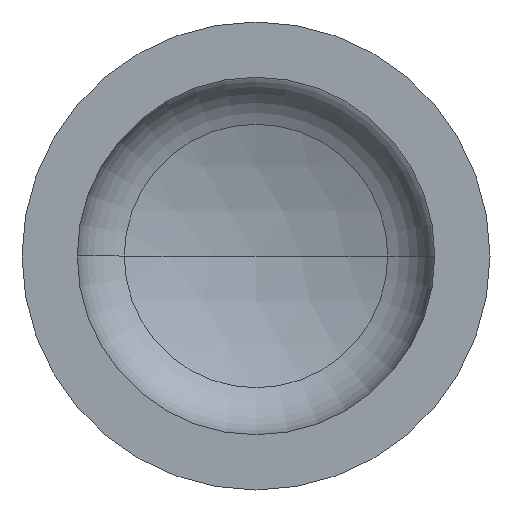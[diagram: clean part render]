
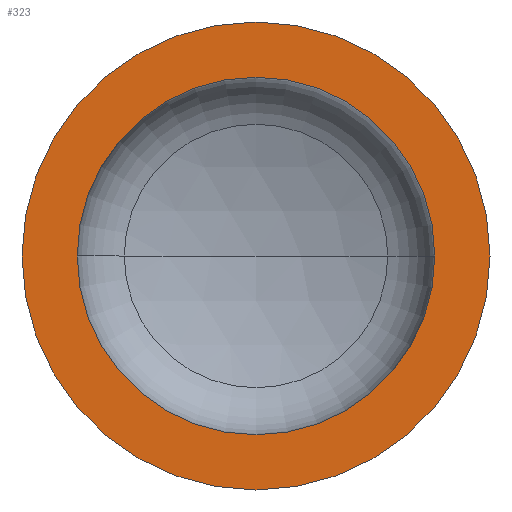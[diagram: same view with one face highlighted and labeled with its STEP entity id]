
A CAD part, front view. The second image highlights one B-rep face of the part: STEP entity #323.
In plain terms, the highlighted planar face has unit normal (0, -1, 0).
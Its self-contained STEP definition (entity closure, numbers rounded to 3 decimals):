
#4 = EDGE_LOOP ( 'NONE', ( #6, #92 ) ) ;
#6 = ORIENTED_EDGE ( 'NONE', *, *, #366, .T. ) ;
#28 = CIRCLE ( 'NONE', #224, 382. ) ;
#31 = EDGE_LOOP ( 'NONE', ( #82, #35 ) ) ;
#35 = ORIENTED_EDGE ( 'NONE', *, *, #291, .F. ) ;
#44 = CARTESIAN_POINT ( 'NONE',  ( -382., 0., 0. ) ) ;
#51 = VERTEX_POINT ( 'NONE', #229 ) ;
#57 = CIRCLE ( 'NONE', #95, 500. ) ;
#61 = VERTEX_POINT ( 'NONE', #205 ) ;
#66 = VERTEX_POINT ( 'NONE', #230 ) ;
#69 = CARTESIAN_POINT ( 'NONE',  ( 0., 0., 0. ) ) ;
#82 = ORIENTED_EDGE ( 'NONE', *, *, #411, .F. ) ;
#92 = ORIENTED_EDGE ( 'NONE', *, *, #397, .T. ) ;
#95 = AXIS2_PLACEMENT_3D ( 'NONE', #379, #383, #289 ) ;
#102 = DIRECTION ( 'NONE',  ( 0., -1., 0. ) ) ;
#110 = DIRECTION ( 'NONE',  ( 0., 1., 0. ) ) ;
#114 = DIRECTION ( 'NONE',  ( -1., 0., 0. ) ) ;
#116 = AXIS2_PLACEMENT_3D ( 'NONE', #147, #110, #114 ) ;
#125 = CARTESIAN_POINT ( 'NONE',  ( 0., 0., 0. ) ) ;
#126 = AXIS2_PLACEMENT_3D ( 'NONE', #378, #398, #396 ) ;
#128 = DIRECTION ( 'NONE',  ( 0., -1., 0. ) ) ;
#147 = CARTESIAN_POINT ( 'NONE',  ( -500., 0., 0. ) ) ;
#185 = AXIS2_PLACEMENT_3D ( 'NONE', #69, #102, #296 ) ;
#193 = CIRCLE ( 'NONE', #126, 382. ) ;
#205 = CARTESIAN_POINT ( 'NONE',  ( 382., 0., 0. ) ) ;
#211 = DIRECTION ( 'NONE',  ( 1., 0., 0. ) ) ;
#222 = CIRCLE ( 'NONE', #185, 500. ) ;
#224 = AXIS2_PLACEMENT_3D ( 'NONE', #125, #128, #211 ) ;
#229 = CARTESIAN_POINT ( 'NONE',  ( 500., 0., 0. ) ) ;
#230 = CARTESIAN_POINT ( 'NONE',  ( -500., 0., 0. ) ) ;
#289 = DIRECTION ( 'NONE',  ( 1., 0., 0. ) ) ;
#291 = EDGE_CURVE ( 'NONE', #312, #61, #193, .T. ) ;
#296 = DIRECTION ( 'NONE',  ( 1., 0., 0. ) ) ;
#312 = VERTEX_POINT ( 'NONE', #44 ) ;
#323 = ADVANCED_FACE ( 'NONE', ( #380, #374 ), #393, .F. ) ;
#366 = EDGE_CURVE ( 'NONE', #51, #66, #57, .T. ) ;
#374 = FACE_OUTER_BOUND ( 'NONE', #4, .T. ) ;
#378 = CARTESIAN_POINT ( 'NONE',  ( 0., 0., 0. ) ) ;
#379 = CARTESIAN_POINT ( 'NONE',  ( 0., 0., 0. ) ) ;
#380 = FACE_BOUND ( 'NONE', #31, .T. ) ;
#383 = DIRECTION ( 'NONE',  ( 0., -1., 0. ) ) ;
#393 = PLANE ( 'NONE',  #116 ) ;
#396 = DIRECTION ( 'NONE',  ( 1., 0., 0. ) ) ;
#397 = EDGE_CURVE ( 'NONE', #66, #51, #222, .T. ) ;
#398 = DIRECTION ( 'NONE',  ( 0., -1., 0. ) ) ;
#411 = EDGE_CURVE ( 'NONE', #61, #312, #28, .T. ) ;
